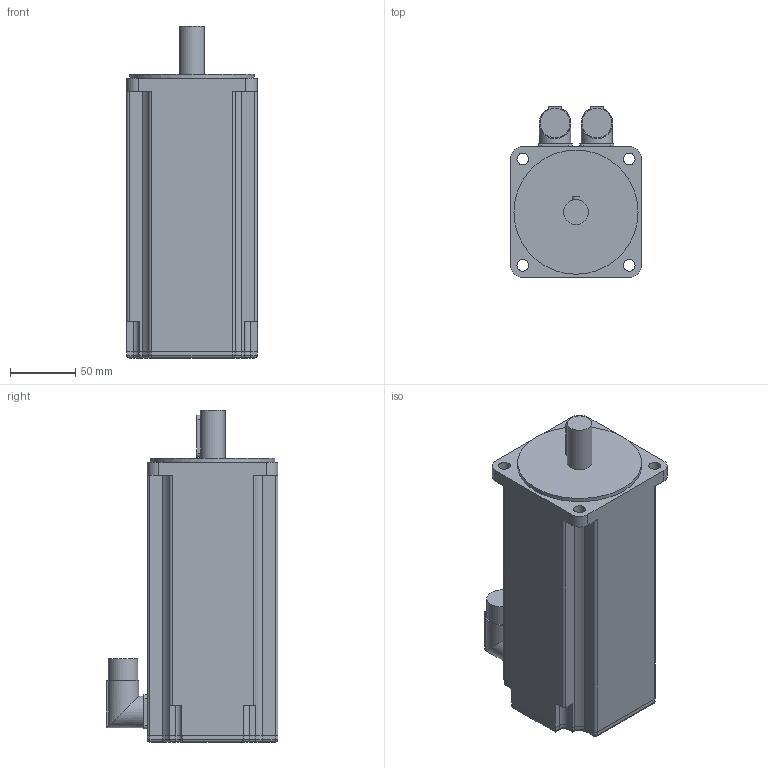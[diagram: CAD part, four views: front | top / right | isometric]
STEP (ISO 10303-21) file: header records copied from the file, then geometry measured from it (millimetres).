
FILE_DESCRIPTION(/* description */ (''),/* implementation_level */ '2;1');
FILE_NAME(/* name */ '\\Lafnas01\disegni\Archivi Lafert\3D\CAD 3D\MODELLI\Assiemi clienti\Serad\Modelli 3D Serad\B63Q\Resolver\Res Without Brake\B6310Qxx6A052033.ipt.stp',/* time_stamp */ '2015-09-07T10:51:24+02:00',/* author */ ('Pastrello Ylenia'),/* organization */ (''),/* preprocessor_version */ 'ST-DEVELOPER v15.6',/* originating_system */ 'Autodesk Inventor 2015',/* authorisation */ '');
FILE_SCHEMA (('AUTOMOTIVE_DESIGN { 1 0 10303 214 3 1 1 }'));
Length unit declared in the file: millimetre
Products named in the file (1): B6310Qxx6A052033
Bounding box: 100 x 131.5 x 254 mm (x, y, z)
Volume: 1985246 mm3; surface area: 114145.9 mm2
Topology: 1 solids, 1 shells, 162 faces, 420 edges, 270 vertices
Faces by surface type: plane 76, cylinder 74, torus 8, sphere 4
Full cylindrical faces by diameter (mm): 9 x4, 19 x1, 22.7 x2, 24 x2, 95 x1
Entity records: 5018 total; most frequent: CARTESIAN_POINT 973, DIRECTION 864, ORIENTED_EDGE 812, EDGE_CURVE 406, AXIS2_PLACEMENT_3D 305, VERTEX_POINT 266, LINE 254, VECTOR 254
